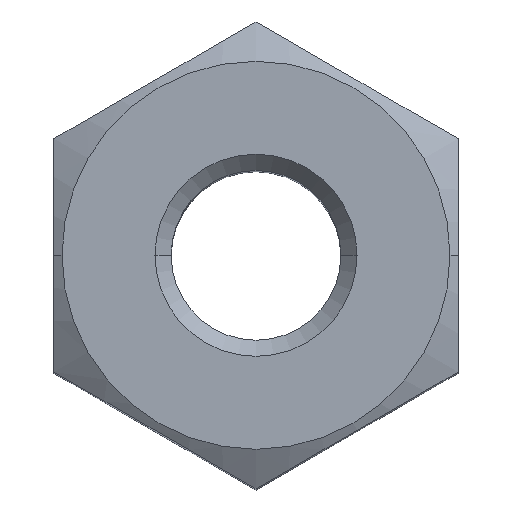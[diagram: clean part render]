
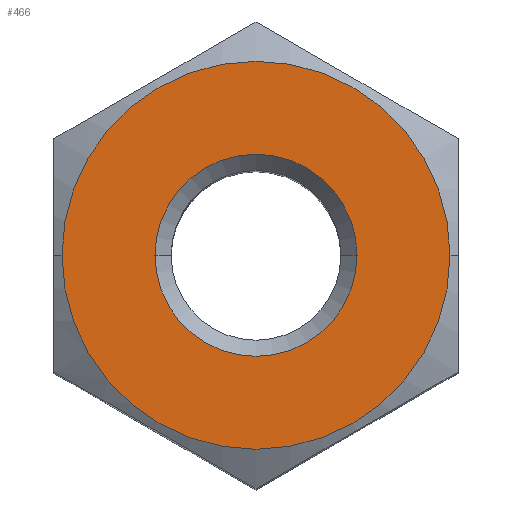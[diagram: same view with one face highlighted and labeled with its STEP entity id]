
A CAD part, top view. The second image highlights one B-rep face of the part: STEP entity #466.
In plain terms, the highlighted planar face has unit normal (0, 0, 1).
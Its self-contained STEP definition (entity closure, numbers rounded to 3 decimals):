
#3 = CIRCLE ( 'NONE', #153, 1.25 ) ;
#4 = PLANE ( 'NONE',  #204 ) ;
#5 = EDGE_CURVE ( 'NONE', #37, #334, #51, .T. ) ;
#33 = ORIENTED_EDGE ( 'NONE', *, *, #622, .T. ) ;
#37 = VERTEX_POINT ( 'NONE', #318 ) ;
#51 = CIRCLE ( 'NONE', #451, 2.4 ) ;
#53 = FACE_OUTER_BOUND ( 'NONE', #558, .T. ) ;
#72 = VERTEX_POINT ( 'NONE', #634 ) ;
#82 = AXIS2_PLACEMENT_3D ( 'NONE', #222, #381, #435 ) ;
#153 = AXIS2_PLACEMENT_3D ( 'NONE', #374, #577, #432 ) ;
#156 = CARTESIAN_POINT ( 'NONE',  ( -1.25, 0., 0. ) ) ;
#170 = DIRECTION ( 'NONE',  ( 0., 0., -1. ) ) ;
#204 = AXIS2_PLACEMENT_3D ( 'NONE', #215, #430, #625 ) ;
#215 = CARTESIAN_POINT ( 'NONE',  ( 0., 0., 0. ) ) ;
#222 = CARTESIAN_POINT ( 'NONE',  ( 0., 0., 0. ) ) ;
#227 = CARTESIAN_POINT ( 'NONE',  ( 0., 0., 0. ) ) ;
#287 = EDGE_CURVE ( 'NONE', #72, #467, #416, .T. ) ;
#293 = ORIENTED_EDGE ( 'NONE', *, *, #287, .T. ) ;
#318 = CARTESIAN_POINT ( 'NONE',  ( -2.4, 0., 0. ) ) ;
#334 = VERTEX_POINT ( 'NONE', #512 ) ;
#356 = ORIENTED_EDGE ( 'NONE', *, *, #475, .T. ) ;
#374 = CARTESIAN_POINT ( 'NONE',  ( 0., 0., 0. ) ) ;
#380 = DIRECTION ( 'NONE',  ( 1., 0., 0. ) ) ;
#381 = DIRECTION ( 'NONE',  ( 0., 0., 1. ) ) ;
#416 = CIRCLE ( 'NONE', #532, 1.25 ) ;
#429 = DIRECTION ( 'NONE',  ( 1., 0., 0. ) ) ;
#430 = DIRECTION ( 'NONE',  ( 0., 0., 1. ) ) ;
#432 = DIRECTION ( 'NONE',  ( 1., 0., 0. ) ) ;
#435 = DIRECTION ( 'NONE',  ( 1., 0., 0. ) ) ;
#451 = AXIS2_PLACEMENT_3D ( 'NONE', #578, #581, #429 ) ;
#466 = ADVANCED_FACE ( 'NONE', ( #527, #53 ), #4, .T. ) ;
#467 = VERTEX_POINT ( 'NONE', #156 ) ;
#472 = ORIENTED_EDGE ( 'NONE', *, *, #5, .T. ) ;
#475 = EDGE_CURVE ( 'NONE', #334, #37, #615, .T. ) ;
#512 = CARTESIAN_POINT ( 'NONE',  ( 2.4, 0., 0. ) ) ;
#527 = FACE_BOUND ( 'NONE', #553, .T. ) ;
#532 = AXIS2_PLACEMENT_3D ( 'NONE', #227, #170, #380 ) ;
#553 = EDGE_LOOP ( 'NONE', ( #293, #33 ) ) ;
#558 = EDGE_LOOP ( 'NONE', ( #472, #356 ) ) ;
#577 = DIRECTION ( 'NONE',  ( 0., 0., -1. ) ) ;
#578 = CARTESIAN_POINT ( 'NONE',  ( 0., 0., 0. ) ) ;
#581 = DIRECTION ( 'NONE',  ( 0., 0., 1. ) ) ;
#615 = CIRCLE ( 'NONE', #82, 2.4 ) ;
#622 = EDGE_CURVE ( 'NONE', #467, #72, #3, .T. ) ;
#625 = DIRECTION ( 'NONE',  ( 1., 0., 0. ) ) ;
#634 = CARTESIAN_POINT ( 'NONE',  ( 1.25, 0., 0. ) ) ;
